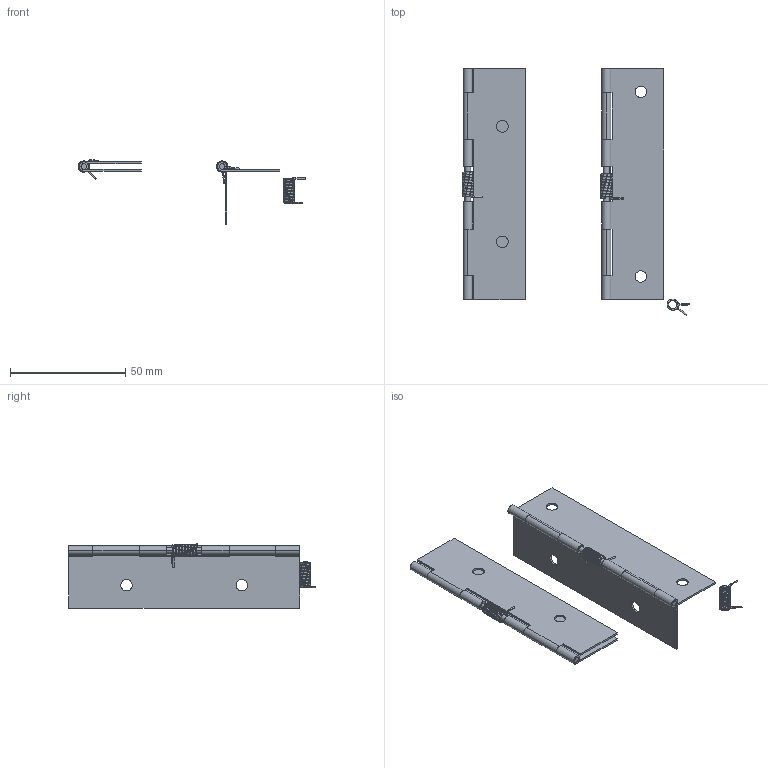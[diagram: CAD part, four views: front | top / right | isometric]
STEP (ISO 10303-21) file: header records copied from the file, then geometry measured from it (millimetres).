
FILE_DESCRIPTION((''),'2;1');
FILE_NAME('99.A100.stp','2015-07-16T15:26:12',(''),(''),'Mechanical Desktop 2006','Mechanical Desktop 2006',', , ');
FILE_SCHEMA(('CONFIG_CONTROL_DESIGN'));
Length unit declared in the file: millimetre
Products named in the file (7): 99.100.30; TEIL2; TEIL1; TEIL3; DREHFEDERN - 0.600000 X 4.800000 X 16.000000; ~DREHFEDERN - 0.600000 X 4.800000 X 16.000000; ~~DREHFEDERN - 0.600000 X 4.800000 X 16.000000
Assembly tree (9 placements, depth 2):
  99.100.30
    TEIL2  x2
    TEIL1  x2
    TEIL3  x2
    DREHFEDERN - 0.600000 X 4.800000 X 16.000000
    ~DREHFEDERN - 0.600000 X 4.800000 X 16.000000
    ~~DREHFEDERN - 0.600000 X 4.800000 X 16.000000
Bounding box: 98.6 x 106.8 x 27.92 mm (x, y, z)
Volume: 9646.4 mm3; surface area: 25270.6 mm2
Topology: 9 solids, 9 shells, 1336 faces, 3178 edges, 1860 vertices
Faces by surface type: cylinder 874, bspline 388, plane 74
Entity records: 45345 total; most frequent: CARTESIAN_POINT 16390, DIRECTION 6742, ORIENTED_EDGE 5912, EDGE_CURVE 2956, AXIS2_PLACEMENT_3D 2915, CIRCLE 2033, VERTEX_POINT 1712, EDGE_LOOP 1264
